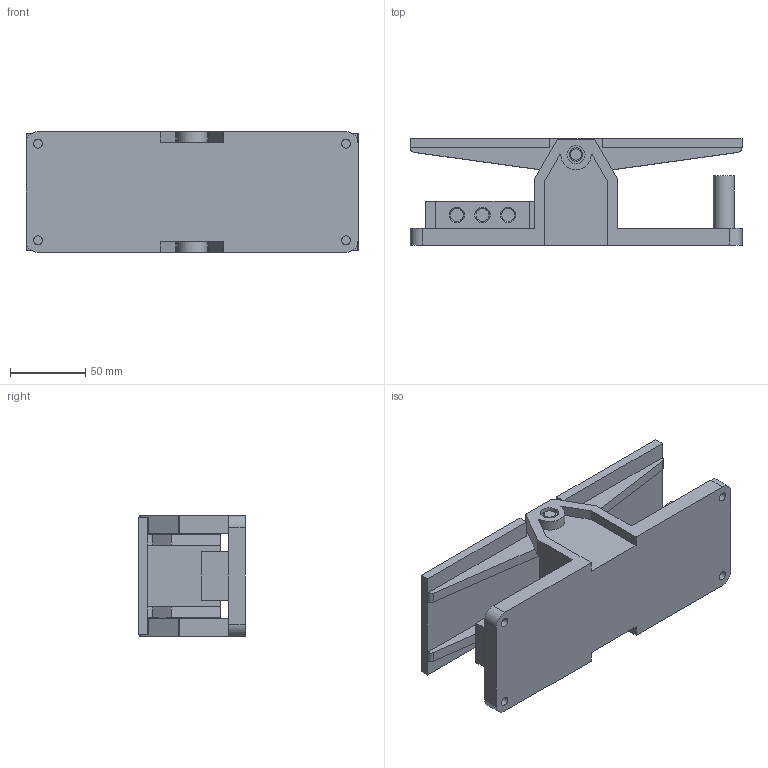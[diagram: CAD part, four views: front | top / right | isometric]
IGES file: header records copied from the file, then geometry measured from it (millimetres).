
Global section: file name: No Iges File Name specified; native system: AutoDesk Inventor R11.0; preprocessor: AutoDesk Inventor Iges Exporter R11.0; author: No Author specified; organization: No Organization specified; date: 20061219.114326; units: millimetre
Bounding box: 220 x 70.5 x 80 mm (x, y, z)
Volume: 425855.9 mm3; surface area: 117018.4 mm2
Topology: 2 solids, 2 shells, 161 faces, 408 edges, 266 vertices
Faces by surface type: plane 69, bspline 63, cylinder 21, revolution 8
